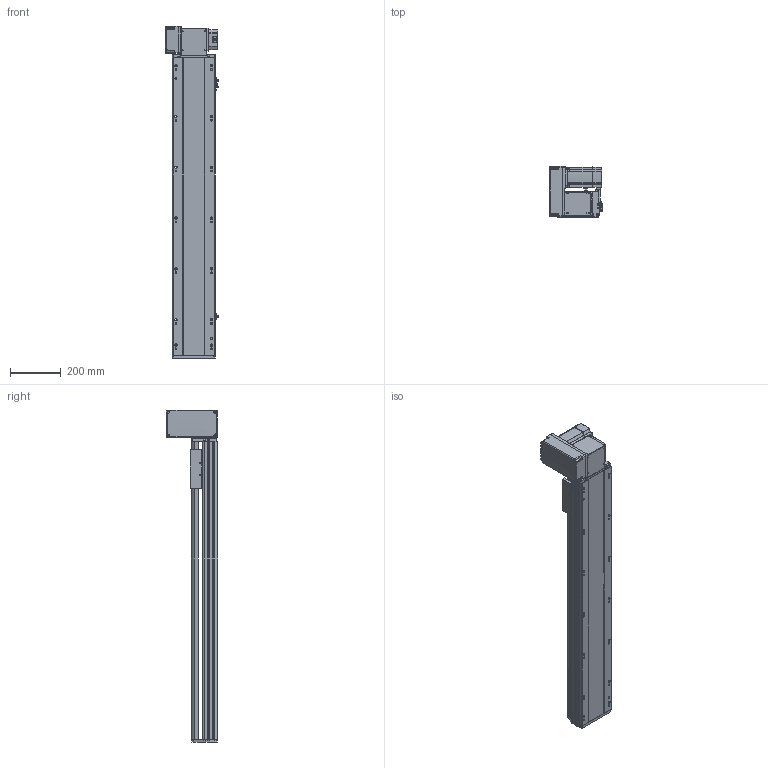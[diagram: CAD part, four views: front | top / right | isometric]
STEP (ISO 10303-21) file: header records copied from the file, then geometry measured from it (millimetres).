
FILE_DESCRIPTION (( 'STEP AP214' ), '1' );
FILE_NAME ('RTB17S-XX-900-LW-M75-C4.STEP', '2025-12-12T01:03:21', ( '' ), ( '' ), 'SwSTEP 2.0', 'SolidWorks 2018', '' );
FILE_SCHEMA (( 'AUTOMOTIVE_DESIGN' ));
Length unit declared in the file: millimetre
Products named in the file (15): RTB17S-XX-900-LW-M75-C4; RTB17S-L-004-賑釱^RTB17S-賑釱_RTB17S-XX-XX-LW-M75-C4; RTB22S-GY-018P^RTB17S-LW-々湍釱蚾饜-750W_RTB17S-XX-XX-LW-M75-C4; RTB17S-L-001-耜醱啣^RTB17S-XX-XX-LW-M75-C4; RTB17S-LW-々湍釱蚾饜-750W^RTB17S-XX-XX-LW-M75-C4; EE672^RTB17S-XX-XX-LW-M75-C4; RTH13-BL-012覜茼え俋离^RTB17S-賑釱_RTB17S-XX-XX-LW-M75-C4; RTB17S-賑釱^RTB17S-XX-XX-LW-M75-C4; RTB22S-GY-008-M75--萇儂啣^RTB17S-LW-々湍釱蚾饜-750W_RTB17S-XX-XX-LW-M75-C4; RTB22S-GY-017P^RTB17S-LW-々湍釱蚾饜-750W_RTB17S-XX-XX-LW-M75-C4; RTB22S-GY-005P^RTB17S-LW-々湍釱蚾饜-750W_RTB17S-XX-XX-LW-M75-C4; RTB17S-L-007奻裔^RTB17S-XX-XX-LW-M75-C4; RTB17-R-011菁釱^RTB17S-XX-XX-LW-M75-C4; 750W萇儂^RTB17S-XX-XX-LW-M75-C4; RTB17S-L-014-T20-P75--々湍釱^RTB17S-LW-々湍釱蚾饜-750W_RTB17S-XX-XX-LW-M75-C4
Assembly tree (17 placements, depth 3):
  RTB17S-XX-900-LW-M75-C4
    RTB17-R-011菁釱^RTB17S-XX-XX-LW-M75-C4
    EE672^RTB17S-XX-XX-LW-M75-C4  x3
    RTB17S-L-001-耜醱啣^RTB17S-XX-XX-LW-M75-C4
    RTB17S-賑釱^RTB17S-XX-XX-LW-M75-C4
      RTB17S-L-004-賑釱^RTB17S-賑釱_RTB17S-XX-XX-LW-M75-C4
      RTH13-BL-012覜茼え俋离^RTB17S-賑釱_RTB17S-XX-XX-LW-M75-C4
    RTB17S-L-007奻裔^RTB17S-XX-XX-LW-M75-C4
    750W萇儂^RTB17S-XX-XX-LW-M75-C4
    RTB17S-LW-々湍釱蚾饜-750W^RTB17S-XX-XX-LW-M75-C4
      RTB17S-L-014-T20-P75--々湍釱^RTB17S-LW-々湍釱蚾饜-750W_RTB17S-XX-XX-LW-M75-C4
      RTB22S-GY-005P^RTB17S-LW-々湍釱蚾饜-750W_RTB17S-XX-XX-LW-M75-C4
      RTB22S-GY-017P^RTB17S-LW-々湍釱蚾饜-750W_RTB17S-XX-XX-LW-M75-C4  x2
      RTB22S-GY-008-M75--萇儂啣^RTB17S-LW-々湍釱蚾饜-750W_RTB17S-XX-XX-LW-M75-C4
      RTB22S-GY-018P^RTB17S-LW-々湍釱蚾饜-750W_RTB17S-XX-XX-LW-M75-C4
Bounding box: 210.4 x 201.5 x 1307.5 mm (x, y, z)
Volume: 11573402.1 mm3; surface area: 1948985.5 mm2
Topology: 17 solids, 17 shells, 2089 faces, 5782 edges, 3734 vertices
Faces by surface type: plane 970, cylinder 703, bspline 294, cone 110, sphere 8, torus 4
Entity records: 58102 total; most frequent: CARTESIAN_POINT 17046, ORIENTED_EDGE 8408, DIRECTION 7862, EDGE_CURVE 4204, AXIS2_PLACEMENT_3D 2754, VERTEX_POINT 2738, LINE 2354, VECTOR 2354
